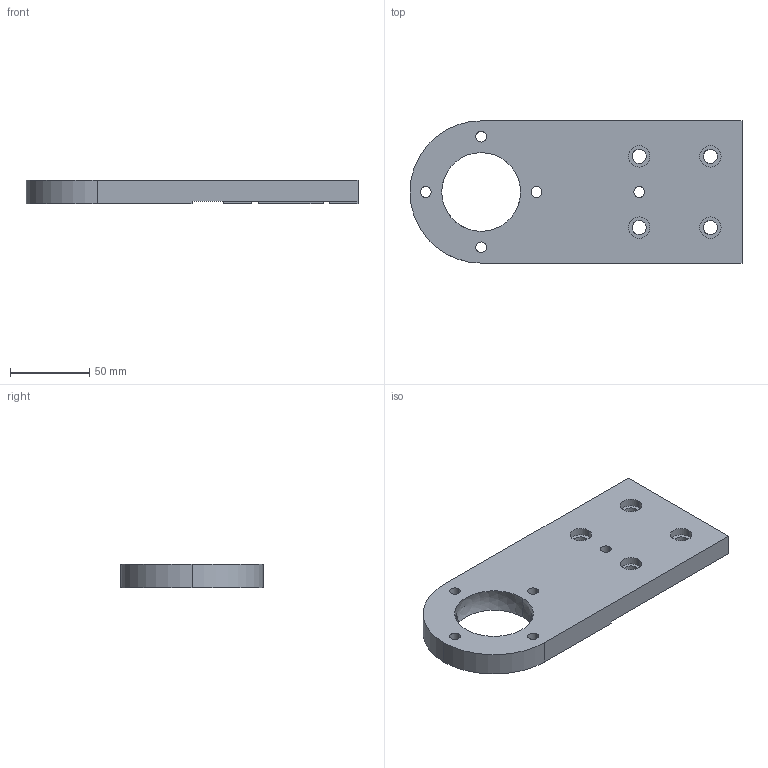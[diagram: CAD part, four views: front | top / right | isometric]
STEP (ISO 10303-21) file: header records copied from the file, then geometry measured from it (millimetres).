
FILE_DESCRIPTION (( 'STEP AP203' ), '1' );
FILE_NAME ('084.808.007.STEP', '2013-01-29T13:57:23', ( 'Alusic' ), ( 'Alusic' ), 'SwSTEP 2.0', 'SolidWorks 2011', '' );
FILE_SCHEMA (( 'CONFIG_CONTROL_DESIGN' ));
Length unit declared in the file: millimetre
Products named in the file (1): 084.808.007
Bounding box: 210 x 90 x 15 mm (x, y, z)
Volume: 218350.8 mm3; surface area: 45885.7 mm2
Topology: 1 solids, 1 shells, 75 faces, 222 edges, 147 vertices
Faces by surface type: plane 39, cylinder 33, sphere 3
Entity records: 2613 total; most frequent: DIRECTION 462, CARTESIAN_POINT 435, ORIENTED_EDGE 432, EDGE_CURVE 216, AXIS2_PLACEMENT_3D 171, VERTEX_POINT 144, VECTOR 120, LINE 120
